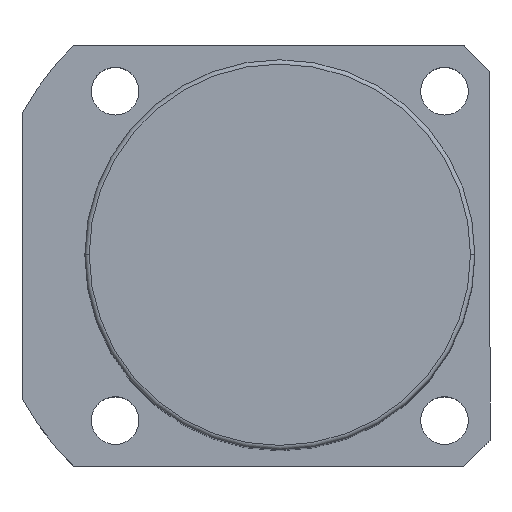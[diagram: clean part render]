
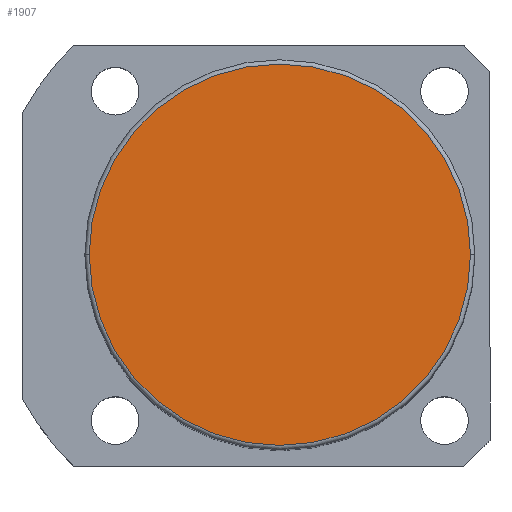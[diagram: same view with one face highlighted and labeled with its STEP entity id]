
A CAD part, top view. The second image highlights one B-rep face of the part: STEP entity #1907.
In plain terms, the highlighted planar face has unit normal (0, 0, 1).
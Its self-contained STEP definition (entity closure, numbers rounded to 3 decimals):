
#161 = AXIS2_PLACEMENT_3D ( 'NONE', #667, #525, #1630 ) ;
#201 = FACE_OUTER_BOUND ( 'NONE', #935, .T. ) ;
#315 = DIRECTION ( 'NONE',  ( 1., 0., 0. ) ) ;
#454 = AXIS2_PLACEMENT_3D ( 'NONE', #1258, #1242, #1407 ) ;
#516 = PLANE ( 'NONE',  #161 ) ;
#525 = DIRECTION ( 'NONE',  ( 0., 0., 1. ) ) ;
#667 = CARTESIAN_POINT ( 'NONE',  ( 0., 0., 166.5 ) ) ;
#935 = EDGE_LOOP ( 'NONE', ( #1194, #1045 ) ) ;
#1045 = ORIENTED_EDGE ( 'NONE', *, *, #1301, .T. ) ;
#1170 = VERTEX_POINT ( 'NONE', #1249 ) ;
#1194 = ORIENTED_EDGE ( 'NONE', *, *, #1867, .T. ) ;
#1242 = DIRECTION ( 'NONE',  ( 0., 0., 1. ) ) ;
#1249 = CARTESIAN_POINT ( 'NONE',  ( 44., 0., 166.5 ) ) ;
#1258 = CARTESIAN_POINT ( 'NONE',  ( 0., 0., 166.5 ) ) ;
#1296 = VERTEX_POINT ( 'NONE', #1553 ) ;
#1301 = EDGE_CURVE ( 'NONE', #1296, #1170, #1561, .T. ) ;
#1372 = CARTESIAN_POINT ( 'NONE',  ( 0., 0., 166.5 ) ) ;
#1407 = DIRECTION ( 'NONE',  ( 1., 0., 0. ) ) ;
#1424 = AXIS2_PLACEMENT_3D ( 'NONE', #1372, #1695, #315 ) ;
#1515 = CIRCLE ( 'NONE', #1424, 44. ) ;
#1553 = CARTESIAN_POINT ( 'NONE',  ( -44., 0., 166.5 ) ) ;
#1561 = CIRCLE ( 'NONE', #454, 44. ) ;
#1630 = DIRECTION ( 'NONE',  ( 1., 0., 0. ) ) ;
#1695 = DIRECTION ( 'NONE',  ( 0., 0., 1. ) ) ;
#1867 = EDGE_CURVE ( 'NONE', #1170, #1296, #1515, .T. ) ;
#1907 = ADVANCED_FACE ( 'NONE', ( #201 ), #516, .T. ) ;
